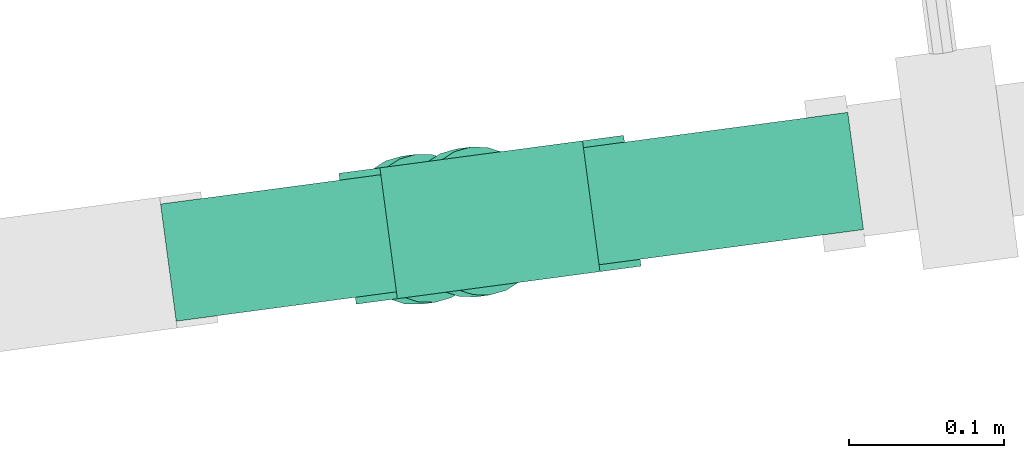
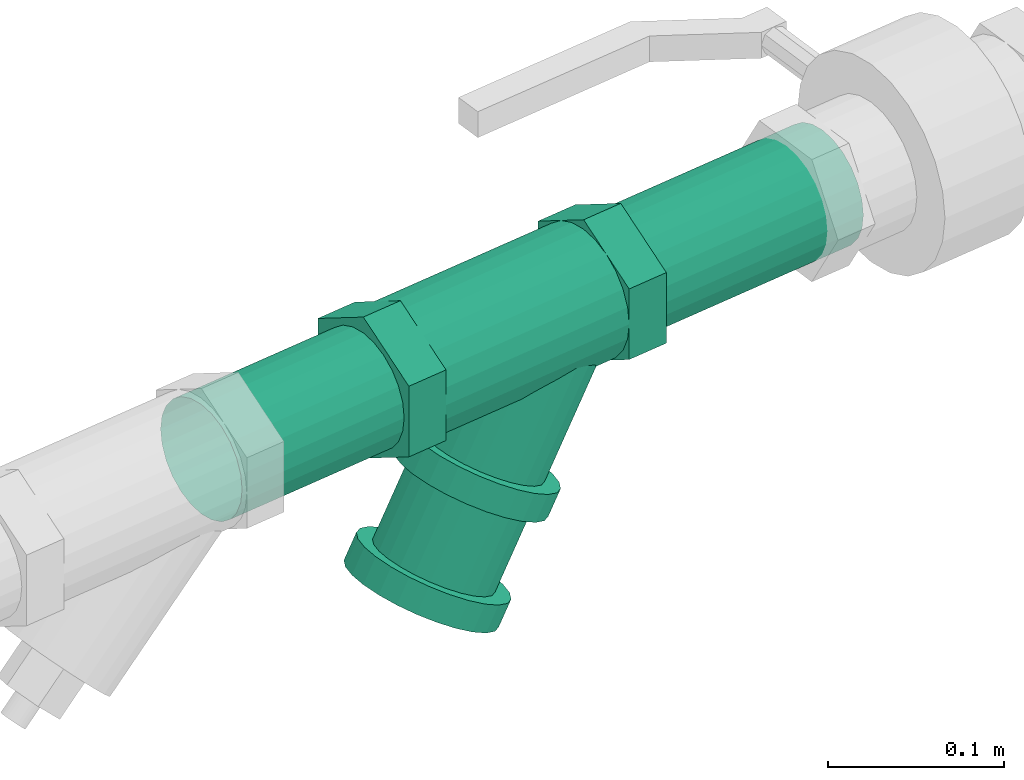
# One storey, part 332 of 374: 2 flow segments, 1 flow treatment device.
"""IFC2X3 building model written with IfcOpenShell, lengths in metres."""

import ifcopenshell
import ifcopenshell.guid

model = None  # the IFC model being written
_history = None  # IfcOwnerHistory: only IFC2X3 demands one
_inside = {}  # id of a spatial element -> (the spatial element, [elements in it])
_under = {}  # id of a project, library or spatial element -> (it, [spatial elements below it])
_declared = {}  # id of a project -> (the project, [libraries it declares])
_typed = {}  # id of a type object -> (the type object, [elements of that type])
_made_of = {}  # id of a material, layer set ... -> (it, [elements and type objects made of it])


def new_model(schema):
    """Start an empty IFC model of exactly this schema.

    Asked for "IFC4X3", IfcOpenShell would pick the latest addendum, in which some entities
    have other attributes; the version numbers below select the first issue.
    IFC2X3 requires an IfcOwnerHistory on every rooted entity: one is made here for all.
    """
    global model, _history
    if schema == "IFC4X3":
        model = ifcopenshell.file(schema_version=(4, 3, 0, 0))
    else:
        model = ifcopenshell.file(schema=schema)
    _inside.clear()
    _under.clear()
    _declared.clear()
    _typed.clear()
    _made_of.clear()
    _history = None
    if model.schema == "IFC2X3":
        org = make("IfcOrganization", Name="unknown")
        user = make(
            "IfcPersonAndOrganization",
            ThePerson=make("IfcPerson", FamilyName="unknown"),
            TheOrganization=org,
        )
        app = make(
            "IfcApplication",
            ApplicationDeveloper=org,
            Version="unknown",
            ApplicationFullName="unknown",
            ApplicationIdentifier="unknown",
        )
        _history = make(
            "IfcOwnerHistory",
            OwningUser=user,
            OwningApplication=app,
            ChangeAction="ADDED",
            CreationDate=0,
        )
    return model


def make(cls, **values):
    """One entity of the class cls with the attributes given. An attribute that is None is left unset."""
    return model.create_entity(
        cls, **{name: value for name, value in values.items() if value is not None}
    )


def rooted(cls, **values):
    """An entity with a GlobalId (a new one), such as an element, a storey or a relation."""
    return make(cls, GlobalId=ifcopenshell.guid.new(), OwnerHistory=_history, **values)


def si_unit(unit_type, name, prefix=None):
    """IfcSIUnit, for example si_unit("LENGTHUNIT", "METRE", prefix="MILLI")."""
    return make("IfcSIUnit", UnitType=unit_type, Prefix=prefix, Name=name)


def assignment(units):
    """IfcUnitAssignment: the units of a project."""
    return None if units is None else make("IfcUnitAssignment", Units=units)


def point(xyz):
    """IfcCartesianPoint."""
    return None if xyz is None else make("IfcCartesianPoint", Coordinates=xyz)


def direction(xyz):
    """IfcDirection."""
    return None if xyz is None else make("IfcDirection", DirectionRatios=xyz)


def frame(location, z_axis=None, x_axis=None):
    """IfcAxis2Placement3D, a coordinate frame: its origin and axes. An axis left out is left unset."""
    return make(
        "IfcAxis2Placement3D",
        Location=point(location),
        Axis=direction(z_axis),
        RefDirection=direction(x_axis),
    )


def origin():
    """The frame at (0, 0, 0) with its axes left unset."""
    return frame((0.0, 0.0, 0.0))


def place(relative_to, where):
    """IfcLocalPlacement: puts the frame where relative to a parent placement (None: the world)."""
    return make(
        "IfcLocalPlacement", PlacementRelTo=relative_to, RelativePlacement=where
    )


def context(
    kind, dimensions, precision=None, world=None, true_north=None, identifier=None
):
    """IfcGeometricRepresentationContext, for example the 3D "Model" context."""
    return make(
        "IfcGeometricRepresentationContext",
        ContextIdentifier=identifier,
        ContextType=kind,
        CoordinateSpaceDimension=dimensions,
        Precision=precision,
        WorldCoordinateSystem=world,
        TrueNorth=true_north,
    )


def subcontext(parent, identifier, kind, view, scale=None):
    """IfcGeometricRepresentationSubContext, for example "Body" below "Model"."""
    return make(
        "IfcGeometricRepresentationSubContext",
        ContextIdentifier=identifier,
        ContextType=kind,
        ParentContext=parent,
        TargetScale=scale,
        TargetView=view,
    )


def project(units=None, contexts=None):
    """IfcProject with its units and contexts."""
    return rooted(
        "IfcProject",
        Name="project",
        RepresentationContexts=contexts,
        UnitsInContext=assignment(units),
    )


def spatial(cls, under=None, at=None, **own):
    """A site, building, storey or space (cls), placed at a placement, below another one or the project."""
    s = rooted(cls, ObjectPlacement=at, **own)
    if under is not None:
        _under.setdefault(under.id(), (under, []))[1].append(s)
    return s


def faces_of(points, faces, orient=None, outer=None):
    """IfcFace entities. A face is a list of loops; a loop is a list of indices into points, from 0.

    orient and outer hold one flag for each loop. By default every Orientation is true, the
    first loop of a face is its IfcFaceOuterBound and the others are IfcFaceBound.
    """
    made = []
    for i, loops in enumerate(faces):
        bounds = []
        for j, loop in enumerate(loops):
            is_outer = j == 0 if outer is None else outer[i][j]
            bounds.append(
                make(
                    "IfcFaceOuterBound" if is_outer else "IfcFaceBound",
                    Bound=make("IfcPolyLoop", Polygon=[points[k] for k in loop]),
                    Orientation=True if orient is None else orient[i][j],
                )
            )
        made.append(make("IfcFace", Bounds=bounds))
    return made


def open_shell(faces, orient=None, outer=None):
    """The faces of one IfcOpenShell. surface_model builds it on its shared points."""
    return ("IfcOpenShell", faces, orient, outer)


def surface_model(cls, points, shells):
    """IfcFaceBasedSurfaceModel or IfcShellBasedSurfaceModel (cls): surfaces that need not close."""
    shared = [point(p) for p in points]
    made = [make(c, CfsFaces=faces_of(shared, fs, o, b)) for c, fs, o, b in shells]
    if cls == "IfcFaceBasedSurfaceModel":
        return make(cls, FbsmFaces=made)
    return make(cls, SbsmBoundary=made)


def shape(context_of_items, identifier, shape_type, items):
    """IfcShapeRepresentation: the items that make up one representation, for example the "Body"."""
    return make(
        "IfcShapeRepresentation",
        ContextOfItems=context_of_items,
        RepresentationIdentifier=identifier,
        RepresentationType=shape_type,
        Items=items,
    )


def source(mapping_origin, context_of_items, identifier, shape_type, items):
    """IfcRepresentationMap: a shape defined once, which mapped items show again and again."""
    return make(
        "IfcRepresentationMap",
        MappingOrigin=mapping_origin,
        MappedRepresentation=shape(context_of_items, identifier, shape_type, items),
    )


def transform(
    local_origin,
    x_axis=None,
    y_axis=None,
    z_axis=None,
    scale=None,
    scale2=None,
    scale3=None,
    uniform=True,
):
    """IfcCartesianTransformationOperator3D, or its non-uniform kind. x_axis, y_axis, z_axis: its Axis1, 2, 3."""
    if uniform:
        return make(
            "IfcCartesianTransformationOperator3D",
            Axis1=direction(x_axis),
            Axis2=direction(y_axis),
            LocalOrigin=point(local_origin),
            Scale=scale,
            Axis3=direction(z_axis),
        )
    return make(
        "IfcCartesianTransformationOperator3DnonUniform",
        Axis1=direction(x_axis),
        Axis2=direction(y_axis),
        LocalOrigin=point(local_origin),
        Scale=scale,
        Axis3=direction(z_axis),
        Scale2=scale2,
        Scale3=scale3,
    )


def mapped(mapping_source, mapping_target):
    """IfcMappedItem: shows the shape of a source again, moved by a transform."""
    return make(
        "IfcMappedItem", MappingSource=mapping_source, MappingTarget=mapping_target
    )


def made_of(thing, what):
    """Note that an element or type object is made of a material, layer set ...; save() writes the relation."""
    if what is not None:
        _made_of.setdefault(what.id(), (what, []))[1].append(thing)
    return thing


def element(
    cls,
    number,
    at=None,
    inside=None,
    cuts=None,
    type_object=None,
    material=None,
    context=None,
    identifier="Body",
    shape_type=None,
    held_by="IfcProductDefinitionShape",
    body=None,
    shapes=None,
    **own,
):
    """One element of the class cls, such as IfcWall. Its Tag is "e" and its number.

    at: its placement. inside: the storey or other place that contains it. cuts: it is an
    opening in that element (IfcRelVoidsElement). A single representation is given by context,
    identifier, shape_type and body (its items); several are given by shapes. held_by: the class
    of the entity that holds the representations. save() writes the other relations.
    """
    e = rooted(cls, Tag="e%d" % number, ObjectPlacement=at, **own)
    if body is not None:
        shapes = [shape(context, identifier, shape_type, body)]
    if shapes is not None:
        e.Representation = make(held_by, Representations=shapes)
    if inside is not None:
        _inside.setdefault(inside.id(), (inside, []))[1].append(e)
    if cuts is not None:
        rooted(
            "IfcRelVoidsElement", RelatingBuildingElement=cuts, RelatedOpeningElement=e
        )
    if type_object is not None:
        _typed.setdefault(type_object.id(), (type_object, []))[1].append(e)
    return made_of(e, material)


def aggregate(whole, parts):
    """IfcRelAggregates: a whole, such as a stair, and the parts it consists of."""
    return rooted("IfcRelAggregates", RelatingObject=whole, RelatedObjects=parts)


def save(model, path):
    """Write the relations noted so far, then the file.

    IfcRelAggregates (storeys below a building ...), IfcRelContainedInSpatialStructure (elements
    in a storey), IfcRelDefinesByType, IfcRelAssociatesMaterial and IfcRelDeclares: one each for
    every whole, place, type object, material and project.
    """
    for whole, parts in _under.values():
        aggregate(whole, parts)
    for where, things in _inside.values():
        rooted(
            "IfcRelContainedInSpatialStructure",
            RelatedElements=things,
            RelatingStructure=where,
        )
    for kind, things in _typed.values():
        rooted("IfcRelDefinesByType", RelatedObjects=things, RelatingType=kind)
    for what, things in _made_of.values():
        rooted("IfcRelAssociatesMaterial", RelatedObjects=things, RelatingMaterial=what)
    for by, libraries in _declared.values():
        rooted("IfcRelDeclares", RelatingContext=by, RelatedDefinitions=libraries)
    model.write(path)


model = new_model("IFC2X3")

# Units and contexts
model_context = context("Model", 3, precision=1e-05, world=origin(), true_north=direction((-0.4480736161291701, 0.8939966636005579)))
body_context = subcontext(model_context, "Body", "Model", "MODEL_VIEW")
ifc_project = project(units=[si_unit("LENGTHUNIT", "METRE"), si_unit("AREAUNIT", "SQUARE_METRE"), si_unit("VOLUMEUNIT", "CUBIC_METRE"), si_unit("PLANEANGLEUNIT", "RADIAN"), si_unit("THERMODYNAMICTEMPERATUREUNIT", "KELVIN"), si_unit("MASSUNIT", "GRAM", prefix="KILO"), si_unit("TIMEUNIT", "SECOND")], contexts=[model_context])

# Site, building, storey
site_placement = place(None, origin())
site = spatial("IfcSite", under=ifc_project, at=site_placement, Name="Site 1", CompositionType="ELEMENT")
building_placement = place(site_placement, origin())
building = spatial("IfcBuilding", under=site, at=building_placement, Name="Undefined", CompositionType="ELEMENT")
storey_placement = place(building_placement, origin())
storey = spatial("IfcBuildingStorey", under=building, at=storey_placement, Name="Rez de chauss\x8ee", CompositionType="ELEMENT", Elevation=0.0)

# Flow treatment device
shared_shape_1 = source(origin(), body_context, "Body", "SurfaceModel", [
    surface_model("IfcFaceBasedSurfaceModel", [(0.0022456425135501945, 0.009933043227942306, 7.105427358e-15), (0.0, 0.0, 0.0), (0.033012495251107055, -3.552713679e-15, 7.105427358e-15), (0.03301249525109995, 0.00993304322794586, -7.105427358e-15), (-0.006583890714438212, -0.00959458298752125, -0.002570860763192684), (0.033012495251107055, -0.009594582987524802, -0.002570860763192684), (-0.01705734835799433, -0.018196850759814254, -0.007537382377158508), (0.03301249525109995, -0.0181968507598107, -0.0075373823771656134), (-0.030706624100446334, -0.025220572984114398, -0.0145611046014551), (0.033012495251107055, -0.025220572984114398, -0.014561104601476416), (-0.04660154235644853, -0.03018709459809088, -0.023163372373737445), (0.03301249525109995, -0.03018709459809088, -0.02316337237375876), (-0.06365889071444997, -0.03275795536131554, -0.03275795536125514), (0.03301249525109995, -0.032757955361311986, -0.03275795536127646), (-0.057973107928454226, -0.03275795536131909, -0.042690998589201), (0.033012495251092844, -0.03275795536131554, -0.04269099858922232), (-0.0526748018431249, -0.03018709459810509, -0.052285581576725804), (0.03301249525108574, -0.030187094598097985, -0.05228558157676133), (-0.04812504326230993, -0.025220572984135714, -0.06088784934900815), (0.03301249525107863, -0.02522057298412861, -0.06088784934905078), (-0.044633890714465, -0.018196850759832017, -0.06791157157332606), (0.033012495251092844, -0.018196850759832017, -0.06791157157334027), (-0.042439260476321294, -0.009594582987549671, -0.07287809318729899), (0.03301249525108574, -0.009594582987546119, -0.0728780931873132), (-0.04169071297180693, -3.1974423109e-14, -0.0754489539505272), (0.03301249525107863, -2.842170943e-14, -0.07544895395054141), (-0.042439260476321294, 0.009933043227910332, -0.07544895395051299), (0.03301249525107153, 0.00993304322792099, -0.07544895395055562), (-0.044633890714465, 0.019527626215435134, -0.07287809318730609), (0.03301249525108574, 0.019527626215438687, -0.0728780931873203), (-0.04812504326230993, 0.02812989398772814, -0.06791157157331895), (0.03301249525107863, 0.02812989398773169, -0.06791157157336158), (-0.052674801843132, 0.03515361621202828, -0.06088784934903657), (0.03301249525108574, 0.03515361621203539, -0.06088784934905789), (-0.057973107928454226, 0.040120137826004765, -0.052285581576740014), (0.03301249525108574, 0.04012013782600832, -0.052285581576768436), (-0.06365889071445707, 0.04269099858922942, -0.04269099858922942), (0.033012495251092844, 0.042690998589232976, -0.042690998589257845), (-0.04660154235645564, 0.042690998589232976, -0.032757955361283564), (0.03301249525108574, 0.04269099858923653, -0.032757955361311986), (-0.03070662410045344, 0.040120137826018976, -0.023163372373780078), (0.03301249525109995, 0.040120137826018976, -0.023163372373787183), (-0.017057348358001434, 0.03515361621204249, -0.014561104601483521), (0.033012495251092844, 0.03515361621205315, -0.014561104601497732), (-0.006583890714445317, 0.028129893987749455, -0.00753738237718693), (0.03301249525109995, 0.028129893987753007, -0.007537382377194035), (7.105427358e-15, 0.019527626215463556, -0.0025708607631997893), (0.03301249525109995, 0.019527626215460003, -0.0025708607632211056), (-0.11013315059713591, -0.04127114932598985, -0.06332930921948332), (-0.06763315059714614, -0.04447392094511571, -0.08765677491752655), (-0.05428315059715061, -0.04145577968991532, -0.0647317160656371), (-0.09678315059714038, -0.03825300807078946, -0.040404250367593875), (-0.1313831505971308, 0.0024666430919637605, -0.05671293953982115), (-0.11803315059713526, 0.005484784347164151, -0.033787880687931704), (-0.11013315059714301, 0.04300166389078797, -0.07442403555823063), (-0.09678315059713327, 0.04601980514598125, -0.051498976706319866), (-0.06763315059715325, 0.03979889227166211, -0.09875150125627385), (-0.054283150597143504, 0.0428170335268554, -0.07582644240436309), (-0.04638315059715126, -0.0039389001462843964, -0.10536787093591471), (-0.033033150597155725, -0.0009207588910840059, -0.08244281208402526), (-0.07553315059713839, 0.044418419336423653, -0.06366270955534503), (-0.08505926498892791, 0.0437005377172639, -0.05802083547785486), (-0.01925926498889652, 0.0585764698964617, 0.05497308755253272), (-0.009733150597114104, 0.05929435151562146, 0.04933121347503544), (-0.09393619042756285, 0.04016005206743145, -0.05238540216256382), (-0.028136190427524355, 0.0550359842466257, 0.06060852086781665), (-0.10155897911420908, 0.03403824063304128, -0.04714045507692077), (-0.035758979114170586, 0.04891417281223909, 0.0658534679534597), (-0.10740815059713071, 0.02575229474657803, -0.042643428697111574), (-0.04160815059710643, 0.04062822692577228, 0.07035049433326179), (-0.1110850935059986, 0.01586688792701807, -0.03920078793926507), (-0.045285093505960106, 0.03074282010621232, 0.07379313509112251), (-0.1123392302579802, 0.005055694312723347, -0.037047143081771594), (-0.04653923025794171, 0.019931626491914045, 0.07594677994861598), (-0.11108509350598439, -0.005944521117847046, -0.03632926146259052), (-0.045285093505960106, 0.008931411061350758, 0.07666466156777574), (-0.10740815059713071, -0.01638411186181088, -0.03709606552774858), (-0.04160815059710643, -0.0015081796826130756, 0.07589785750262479), (-0.10155897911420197, -0.025551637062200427, -0.03929529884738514), (-0.03575897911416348, -0.010675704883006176, 0.07369862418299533), (-0.09393619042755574, -0.03282234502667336, -0.042777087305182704), (-0.02813619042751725, -0.017946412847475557, 0.07021683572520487), (-0.0850592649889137, -0.037700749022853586, -0.047304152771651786), (-0.019259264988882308, -0.022824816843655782, 0.06568977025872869), (-0.07553315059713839, -0.03985439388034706, -0.05256798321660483), (-0.009733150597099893, -0.02497846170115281, 0.06042593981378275), (-0.06600703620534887, -0.039136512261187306, -0.0582098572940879), (-0.00020703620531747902, -0.024260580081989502, 0.054784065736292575), (-0.05713011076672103, -0.03559602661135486, -0.06384529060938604), (0.008669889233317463, -0.020720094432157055, 0.04914863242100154), (-0.049507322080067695, -0.029474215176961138, -0.06909023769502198), (0.0162926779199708, -0.014598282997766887, 0.04390368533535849), (-0.04365815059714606, -0.021188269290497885, -0.07358726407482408), (0.022141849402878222, -0.0063123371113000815, 0.03940665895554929), (-0.039981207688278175, -0.011302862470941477, -0.07702990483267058), (0.025818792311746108, 0.0035730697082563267, 0.03596401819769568), (-0.03872707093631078, -0.0004916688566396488, -0.07918354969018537), (0.027072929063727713, 0.01438426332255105, 0.033810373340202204), (-0.039981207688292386, 0.010508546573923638, -0.07990143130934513), (0.025818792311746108, 0.02538447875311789, 0.03309249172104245), (-0.04365815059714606, 0.020948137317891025, -0.07913462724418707), (0.022141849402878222, 0.035824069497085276, 0.033859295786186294), (-0.0495073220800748, 0.030115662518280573, -0.07693539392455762), (0.016292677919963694, 0.044991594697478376, 0.036058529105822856), (-0.05713011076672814, 0.03738637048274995, -0.07345360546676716), (0.008669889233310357, 0.052262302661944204, 0.039540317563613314), (-0.06600703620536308, 0.04226477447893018, -0.06892654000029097), (-0.00020703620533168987, 0.05714070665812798, 0.04406738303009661), (-0.030983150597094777, -0.02337707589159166, 0.07258967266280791), (0.01151684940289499, -0.026579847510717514, 0.04826220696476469), (0.02486684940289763, -0.023561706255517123, 0.07118726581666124), (-0.01763315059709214, -0.020358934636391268, 0.09551473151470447), (-0.05223315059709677, 0.02036071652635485, 0.07920604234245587), (-0.03888315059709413, 0.02337885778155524, 0.10213110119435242), (-0.030983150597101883, 0.06089573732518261, 0.06149494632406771), (-0.01763315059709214, 0.06391387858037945, 0.08442000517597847), (0.011516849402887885, 0.057692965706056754, 0.037167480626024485), (0.02486684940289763, 0.06071110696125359, 0.06009253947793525), (0.03276684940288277, 0.013955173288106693, 0.030551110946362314), (0.04611684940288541, 0.016973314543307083, 0.053476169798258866), (0.033012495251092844, 0.05260544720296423, -0.04399626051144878), (0.03301249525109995, 0.05260544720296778, -0.03145269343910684), (0.051012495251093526, 0.05260544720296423, -0.03145269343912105), (0.051012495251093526, 0.052605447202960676, -0.04399626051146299), (0.033012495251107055, 0.049358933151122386, -0.019336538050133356), (0.051012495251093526, 0.04935893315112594, -0.019336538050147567), (0.03301249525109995, 0.04308714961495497, -0.008473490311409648), (0.05101249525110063, 0.04308714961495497, -0.008473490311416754), (0.033012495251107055, 0.03421750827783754, 0.0003961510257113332), (0.05101249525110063, 0.034217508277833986, 0.00039615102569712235), (0.03301249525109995, 0.023354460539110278, 0.00666793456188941), (0.05101249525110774, 0.023354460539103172, 0.006667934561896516), (0.033012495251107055, 0.011238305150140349, 0.00991444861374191), (0.05101249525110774, 0.011238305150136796, 0.009914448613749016), (0.03301249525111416, -0.0013052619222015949, 0.009914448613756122), (0.05101249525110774, -0.0013052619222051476, 0.009914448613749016), (0.03301249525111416, -0.013421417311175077, 0.006667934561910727), (0.05101249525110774, -0.013421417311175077, 0.006667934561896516), (0.03301249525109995, -0.024284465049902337, 0.0003961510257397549), (0.05101249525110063, -0.02428446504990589, 0.00039615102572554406), (0.03301249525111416, -0.03315410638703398, -0.008473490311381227), (0.05101249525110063, -0.03315410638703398, -0.008473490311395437), (0.033012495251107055, -0.03942588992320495, -0.019336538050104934), (0.05101249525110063, -0.039425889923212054, -0.019336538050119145), (0.033012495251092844, -0.04267240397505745, -0.03145269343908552), (0.05101249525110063, -0.04267240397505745, -0.03145269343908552), (0.03301249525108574, -0.042672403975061, -0.043996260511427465), (0.051012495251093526, -0.042672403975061, -0.04399626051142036), (0.03301249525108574, -0.03942588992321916, -0.05611241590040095), (0.051012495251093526, -0.03942588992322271, -0.05611241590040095), (0.03301249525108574, -0.03315410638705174, -0.06697546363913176), (0.051012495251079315, -0.03315410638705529, -0.06697546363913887), (0.03301249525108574, -0.02428446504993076, -0.07584510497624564), (0.05101249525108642, -0.024284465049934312, -0.07584510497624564), (0.033012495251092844, -0.013421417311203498, -0.08211688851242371), (0.051012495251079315, -0.013421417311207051, -0.08211688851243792), (0.03301249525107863, -0.0013052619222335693, -0.08536340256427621), (0.05101249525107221, -0.0013052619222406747, -0.08536340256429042), (0.03301249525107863, 0.011238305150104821, -0.08536340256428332), (0.051012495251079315, 0.011238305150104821, -0.08536340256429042), (0.03301249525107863, 0.023354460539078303, -0.08211688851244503), (0.051012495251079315, 0.023354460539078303, -0.08211688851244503), (0.03301249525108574, 0.034217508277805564, -0.07584510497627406), (0.051012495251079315, 0.034217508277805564, -0.07584510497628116), (0.03301249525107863, 0.043087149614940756, -0.06697546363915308), (0.051012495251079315, 0.04308714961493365, -0.06697546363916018), (0.03301249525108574, 0.04935893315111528, -0.05611241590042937), (0.051012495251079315, 0.04935893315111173, -0.05611241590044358), (0.033012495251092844, 0.004966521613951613, -0.03772447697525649), (0.051012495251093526, 0.004966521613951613, -0.03772447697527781), (0.05101249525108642, 0.04269099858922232, -0.042690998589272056), (0.051012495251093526, 0.04269099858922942, -0.03275795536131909), (0.10421902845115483, 0.04269099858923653, -0.032757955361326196), (0.10421902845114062, 0.042690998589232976, -0.04269099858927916), (0.05101249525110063, 0.040120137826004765, -0.023163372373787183), (0.10421902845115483, 0.04012013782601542, -0.0231633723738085), (0.051012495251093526, 0.03515361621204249, -0.014561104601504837), (0.10421902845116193, 0.0351536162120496, -0.014561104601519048), (0.05101249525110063, 0.028129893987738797, -0.007537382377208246), (0.10421902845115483, 0.028129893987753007, -0.007537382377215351), (0.05101249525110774, 0.01952762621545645, -0.0025708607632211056), (0.10421902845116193, 0.019527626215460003, -0.0025708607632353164), (0.05101249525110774, 0.009933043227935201, 7.105427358e-15), (0.10421902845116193, 0.00993304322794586, -1.4210854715e-14), (0.05101249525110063, -1.0658141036e-14, -7.105427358e-15), (0.10421902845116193, 0.0, -7.105427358e-15), (0.05101249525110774, -0.009594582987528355, -0.002570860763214), (0.10421902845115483, -0.00959458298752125, -0.002570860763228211), (0.05101249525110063, -0.01819685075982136, -0.007537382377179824), (0.10421902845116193, -0.0181968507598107, -0.007537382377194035), (0.051012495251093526, -0.025220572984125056, -0.014561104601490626), (0.10421902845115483, -0.02522057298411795, -0.014561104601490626), (0.05101249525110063, -0.030187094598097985, -0.023163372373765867), (0.10421902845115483, -0.03018709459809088, -0.023163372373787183), (0.05101249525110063, -0.032757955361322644, -0.032757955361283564), (0.10421902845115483, -0.032757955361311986, -0.032757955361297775), (0.05101249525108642, -0.03275795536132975, -0.04269099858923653), (0.10421902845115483, -0.03275795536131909, -0.042690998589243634), (0.05101249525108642, -0.030187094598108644, -0.052285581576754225), (0.10421902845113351, -0.030187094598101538, -0.05228558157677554), (0.05101249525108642, -0.02522057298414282, -0.06088784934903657), (0.10421902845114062, -0.02522057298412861, -0.06088784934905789), (0.051012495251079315, -0.018196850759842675, -0.06791157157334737), (0.10421902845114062, -0.01819685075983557, -0.06791157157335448), (0.051012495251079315, -0.009594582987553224, -0.07287809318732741), (0.10421902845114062, -0.009594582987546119, -0.07287809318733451), (0.051012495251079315, -3.1974423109e-14, -0.07544895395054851), (0.10421902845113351, -2.4868995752e-14, -0.07544895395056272), (0.051012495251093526, 0.009933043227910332, -0.07544895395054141), (0.10421902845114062, 0.009933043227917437, -0.07544895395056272), (0.051012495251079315, 0.01952762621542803, -0.07287809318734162), (0.10421902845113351, 0.019527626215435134, -0.07287809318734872), (0.051012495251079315, 0.028129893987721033, -0.06791157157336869), (0.10421902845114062, 0.02812989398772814, -0.0679115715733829), (0.05101249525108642, 0.03515361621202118, -0.0608878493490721), (0.10421902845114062, 0.035153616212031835, -0.0608878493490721), (0.05101249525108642, 0.04012013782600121, -0.05228558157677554), (0.10421902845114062, 0.04012013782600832, -0.05228558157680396), (0.10421902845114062, 0.05260544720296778, -0.0439962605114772), (0.10421902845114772, 0.052605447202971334, -0.03145269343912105), (0.12221902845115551, 0.05260544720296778, -0.03145269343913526), (0.1222190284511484, 0.05260544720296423, -0.0439962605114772), (0.10421902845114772, 0.049358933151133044, -0.019336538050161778), (0.1222190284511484, 0.04935893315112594, -0.019336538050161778), (0.10421902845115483, 0.04308714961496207, -0.008473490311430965), (0.12221902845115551, 0.04308714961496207, -0.00847349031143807), (0.10421902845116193, 0.03421750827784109, 0.00039615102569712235), (0.1222190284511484, 0.03421750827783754, 0.0003961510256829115), (0.10421902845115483, 0.023354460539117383, 0.006667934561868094), (0.1222190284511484, 0.02335446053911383, 0.006667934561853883), (0.10421902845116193, 0.011238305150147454, 0.0099144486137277), (0.12221902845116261, 0.011238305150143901, 0.009914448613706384), (0.10421902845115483, -0.0013052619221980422, 0.009914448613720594), (0.12221902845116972, -0.0013052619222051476, 0.009914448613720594), (0.10421902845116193, -0.013421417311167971, 0.006667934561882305), (0.12221902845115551, -0.013421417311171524, 0.006667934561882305), (0.10421902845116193, -0.024284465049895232, 0.0003961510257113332), (0.12221902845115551, -0.024284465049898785, 0.0003961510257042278), (0.10421902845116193, -0.03315410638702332, -0.008473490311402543), (0.12221902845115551, -0.033154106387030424, -0.008473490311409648), (0.10421902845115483, -0.039425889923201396, -0.019336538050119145), (0.12221902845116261, -0.03942588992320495, -0.019336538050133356), (0.10421902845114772, -0.042672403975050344, -0.03145269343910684), (0.1222190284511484, -0.042672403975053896, -0.03145269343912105), (0.10421902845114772, -0.04267240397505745, -0.04399626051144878), (0.12221902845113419, -0.04267240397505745, -0.04399626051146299), (0.10421902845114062, -0.039425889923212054, -0.05611241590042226), (0.12221902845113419, -0.03942588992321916, -0.056112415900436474), (0.10421902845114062, -0.03315410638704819, -0.06697546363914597), (0.12221902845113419, -0.03315410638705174, -0.06697546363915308), (0.10421902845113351, -0.024284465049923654, -0.07584510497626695), (0.1222190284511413, -0.024284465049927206, -0.07584510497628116), (0.10421902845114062, -0.013421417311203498, -0.08211688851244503), (0.12221902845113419, -0.013421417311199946, -0.08211688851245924), (0.10421902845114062, -0.0013052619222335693, -0.08536340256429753), (0.12221902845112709, -0.001305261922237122, -0.08536340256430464), (0.10421902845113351, 0.01123830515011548, -0.08536340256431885), (0.12221902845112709, 0.01123830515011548, -0.08536340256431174), (0.1042190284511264, 0.02335446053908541, -0.08211688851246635), (0.12221902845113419, 0.023354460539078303, -0.08211688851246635), (0.10421902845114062, 0.03421750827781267, -0.07584510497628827), (0.12221902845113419, 0.03421750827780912, -0.07584510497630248), (0.10421902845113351, 0.043087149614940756, -0.06697546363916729), (0.12221902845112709, 0.043087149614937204, -0.0669754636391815), (0.10421902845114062, 0.04935893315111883, -0.05611241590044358), (0.12221902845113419, 0.04935893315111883, -0.056112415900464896), (0.10421902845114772, 0.004966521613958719, -0.03772447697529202), (0.1222190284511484, 0.004966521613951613, -0.03772447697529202)], [open_shell([[[0, 1, 2, 3]], [[1, 4, 5, 2]], [[4, 6, 7, 5]], [[6, 8, 9, 7]], [[8, 10, 11, 9]], [[10, 12, 13, 11]], [[12, 14, 15, 13]], [[14, 16, 17, 15]], [[16, 18, 19, 17]], [[18, 20, 21, 19]], [[20, 22, 23, 21]], [[22, 24, 25, 23]], [[24, 26, 27, 25]], [[26, 28, 29, 27]], [[28, 30, 31, 29]], [[30, 32, 33, 31]], [[32, 34, 35, 33]], [[34, 36, 37, 35]], [[36, 38, 39, 37]], [[38, 40, 41, 39]], [[40, 42, 43, 41]], [[42, 44, 45, 43]], [[44, 46, 47, 45]], [[46, 0, 3, 47]], [[48, 49, 50, 51]], [[52, 48, 51, 53]], [[54, 52, 53, 55]], [[56, 54, 55, 57]], [[58, 56, 57, 59]], [[49, 58, 59, 50]], [[49, 48, 52]], [[49, 52, 54]], [[49, 54, 56]], [[49, 56, 58]], [[50, 53, 51]], [[50, 55, 53]], [[50, 57, 55]], [[50, 59, 57]], [[60, 61, 62, 63]], [[61, 64, 65, 62]], [[64, 66, 67, 65]], [[66, 68, 69, 67]], [[68, 70, 71, 69]], [[70, 72, 73, 71]], [[72, 74, 75, 73]], [[74, 76, 77, 75]], [[76, 78, 79, 77]], [[78, 80, 81, 79]], [[80, 82, 83, 81]], [[82, 84, 85, 83]], [[84, 86, 87, 85]], [[86, 88, 89, 87]], [[88, 90, 91, 89]], [[90, 92, 93, 91]], [[92, 94, 95, 93]], [[94, 96, 97, 95]], [[96, 98, 99, 97]], [[98, 100, 101, 99]], [[100, 102, 103, 101]], [[102, 104, 105, 103]], [[104, 106, 107, 105]], [[106, 60, 63, 107]], [[108, 109, 110, 111]], [[112, 108, 111, 113]], [[114, 112, 113, 115]], [[116, 114, 115, 117]], [[118, 116, 117, 119]], [[109, 118, 119, 110]], [[109, 108, 112]], [[109, 112, 114]], [[109, 114, 116]], [[109, 116, 118]], [[110, 113, 111]], [[110, 115, 113]], [[110, 117, 115]], [[110, 119, 117]], [[120, 121, 122, 123]], [[121, 124, 125, 122]], [[124, 126, 127, 125]], [[126, 128, 129, 127]], [[128, 130, 131, 129]], [[130, 132, 133, 131]], [[132, 134, 135, 133]], [[134, 136, 137, 135]], [[136, 138, 139, 137]], [[138, 140, 141, 139]], [[140, 142, 143, 141]], [[142, 144, 145, 143]], [[144, 146, 147, 145]], [[146, 148, 149, 147]], [[148, 150, 151, 149]], [[150, 152, 153, 151]], [[152, 154, 155, 153]], [[154, 156, 157, 155]], [[156, 158, 159, 157]], [[158, 160, 161, 159]], [[160, 162, 163, 161]], [[162, 164, 165, 163]], [[164, 166, 167, 165]], [[166, 120, 123, 167]], [[168, 121, 120]], [[168, 124, 121]], [[168, 126, 124]], [[168, 128, 126]], [[168, 130, 128]], [[168, 132, 130]], [[168, 134, 132]], [[168, 136, 134]], [[168, 138, 136]], [[168, 140, 138]], [[168, 142, 140]], [[168, 144, 142]], [[168, 146, 144]], [[168, 148, 146]], [[168, 150, 148]], [[168, 152, 150]], [[168, 154, 152]], [[168, 156, 154]], [[168, 158, 156]], [[168, 160, 158]], [[168, 162, 160]], [[168, 164, 162]], [[168, 166, 164]], [[168, 120, 166]], [[169, 167, 123]], [[169, 165, 167]], [[169, 163, 165]], [[169, 161, 163]], [[169, 159, 161]], [[169, 157, 159]], [[169, 155, 157]], [[169, 153, 155]], [[169, 151, 153]], [[169, 149, 151]], [[169, 147, 149]], [[169, 145, 147]], [[169, 143, 145]], [[169, 141, 143]], [[169, 139, 141]], [[169, 137, 139]], [[169, 135, 137]], [[169, 133, 135]], [[169, 131, 133]], [[169, 129, 131]], [[169, 127, 129]], [[169, 125, 127]], [[169, 122, 125]], [[169, 123, 122]], [[170, 171, 172, 173]], [[171, 174, 175, 172]], [[174, 176, 177, 175]], [[176, 178, 179, 177]], [[178, 180, 181, 179]], [[180, 182, 183, 181]], [[182, 184, 185, 183]], [[184, 186, 187, 185]], [[186, 188, 189, 187]], [[188, 190, 191, 189]], [[190, 192, 193, 191]], [[192, 194, 195, 193]], [[194, 196, 197, 195]], [[196, 198, 199, 197]], [[198, 200, 201, 199]], [[200, 202, 203, 201]], [[202, 204, 205, 203]], [[204, 206, 207, 205]], [[206, 208, 209, 207]], [[208, 210, 211, 209]], [[210, 212, 213, 211]], [[212, 214, 215, 213]], [[214, 216, 217, 215]], [[216, 170, 173, 217]], [[218, 219, 220, 221]], [[219, 222, 223, 220]], [[222, 224, 225, 223]], [[224, 226, 227, 225]], [[226, 228, 229, 227]], [[228, 230, 231, 229]], [[230, 232, 233, 231]], [[232, 234, 235, 233]], [[234, 236, 237, 235]], [[236, 238, 239, 237]], [[238, 240, 241, 239]], [[240, 242, 243, 241]], [[242, 244, 245, 243]], [[244, 246, 247, 245]], [[246, 248, 249, 247]], [[248, 250, 251, 249]], [[250, 252, 253, 251]], [[252, 254, 255, 253]], [[254, 256, 257, 255]], [[256, 258, 259, 257]], [[258, 260, 261, 259]], [[260, 262, 263, 261]], [[262, 264, 265, 263]], [[264, 218, 221, 265]], [[266, 219, 218]], [[266, 222, 219]], [[266, 224, 222]], [[266, 226, 224]], [[266, 228, 226]], [[266, 230, 228]], [[266, 232, 230]], [[266, 234, 232]], [[266, 236, 234]], [[266, 238, 236]], [[266, 240, 238]], [[266, 242, 240]], [[266, 244, 242]], [[266, 246, 244]], [[266, 248, 246]], [[266, 250, 248]], [[266, 252, 250]], [[266, 254, 252]], [[266, 256, 254]], [[266, 258, 256]], [[266, 260, 258]], [[266, 262, 260]], [[266, 264, 262]], [[266, 218, 264]], [[267, 265, 221]], [[267, 263, 265]], [[267, 261, 263]], [[267, 259, 261]], [[267, 257, 259]], [[267, 255, 257]], [[267, 253, 255]], [[267, 251, 253]], [[267, 249, 251]], [[267, 247, 249]], [[267, 245, 247]], [[267, 243, 245]], [[267, 241, 243]], [[267, 239, 241]], [[267, 237, 239]], [[267, 235, 237]], [[267, 233, 235]], [[267, 231, 233]], [[267, 229, 231]], [[267, 227, 229]], [[267, 225, 227]], [[267, 223, 225]], [[267, 220, 223]], [[267, 221, 220]]])]),
])
flow_treatment_device_placement = place(storey_placement, origin())
element("IfcFlowTreatmentDevice", 1, at=flow_treatment_device_placement, inside=storey, Name="Filtre en Y", ObjectType="Filtre en Y", context=body_context, shape_type="MappedRepresentation", body=[
    mapped(shared_shape_1, transform((67.06385583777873, 20.49766548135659, 0.6636793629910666), x_axis=(-0.49560777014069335, -0.06612819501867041, -0.8660254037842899), y_axis=(0.019078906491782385, -0.9976856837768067, 0.06526309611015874), z_axis=(-0.8683368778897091, 0.015822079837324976, 0.49572243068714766))),
])

# Flow segments
shared_shape_2 = source(origin(), body_context, "Body", "SurfaceModel", [
    surface_model("IfcFaceBasedSurfaceModel", [(0.0, 0.009933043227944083, 0.0), (0.0, 0.0, 0.0), (0.17174651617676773, -1.776356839e-15, -4.4408921e-16), (0.17174651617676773, 0.00993304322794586, -4.4408921e-16), (0.0, -0.009594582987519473, -0.002570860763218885), (0.17174651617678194, -0.009594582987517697, -0.002570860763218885), (0.0, -0.018196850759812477, -0.007537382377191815), (0.17174651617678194, -0.0181968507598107, -0.007537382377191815), (0.0, -0.025220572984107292, -0.014561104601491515), (0.17174651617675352, -0.025220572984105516, -0.014561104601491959), (1.4210854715e-14, -0.030187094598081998, -0.023163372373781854), (0.17174651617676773, -0.030187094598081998, -0.023163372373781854), (0.0, -0.03275795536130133, -0.032757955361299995), (0.17174651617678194, -0.03275795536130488, -0.032757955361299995), (1.4210854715e-14, -0.03275795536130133, -0.0426909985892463), (0.17174651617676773, -0.03275795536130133, -0.0426909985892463), (0.0, -0.030187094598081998, -0.052285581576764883), (0.17174651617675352, -0.030187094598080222, -0.05228558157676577), (0.0, -0.02522057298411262, -0.06088784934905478), (0.17174651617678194, -0.025220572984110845, -0.06088784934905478), (0.0, -0.0181968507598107, -0.06791157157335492), (0.17174651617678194, -0.018196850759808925, -0.06791157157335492), (0.0, -0.009594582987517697, -0.07287809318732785), (0.17174651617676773, -0.00959458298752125, -0.07287809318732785), (0.0, -3.552713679e-15, -0.07544895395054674), (0.17174651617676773, -1.776356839e-15, -0.07544895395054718), (0.0, 0.009933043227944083, -0.07544895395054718), (0.17174651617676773, 0.009933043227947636, -0.07544895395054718), (1.4210854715e-14, 0.019527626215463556, -0.07287809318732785), (0.17174651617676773, 0.019527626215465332, -0.07287809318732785), (0.0, 0.028129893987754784, -0.06791157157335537), (0.17174651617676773, 0.02812989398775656, -0.06791157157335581), (0.0, 0.03515361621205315, -0.06088784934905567), (0.17174651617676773, 0.035153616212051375, -0.06088784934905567), (0.0, 0.04012013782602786, -0.05228558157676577), (0.17174651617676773, 0.04012013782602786, -0.05228558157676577), (0.0, 0.04269099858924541, -0.04269099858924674), (0.17174651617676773, 0.04269099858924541, -0.04269099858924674), (0.0, 0.04269099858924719, -0.03275795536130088), (0.17174651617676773, 0.04269099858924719, -0.03275795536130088), (0.0, 0.04012013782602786, -0.0231633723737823), (0.17174651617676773, 0.04012013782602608, -0.0231633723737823), (0.0, 0.03515361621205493, -0.014561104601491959), (0.17174651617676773, 0.035153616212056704, -0.014561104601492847), (1.4210854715e-14, 0.028129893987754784, -0.007537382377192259), (0.17174651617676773, 0.02812989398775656, -0.007537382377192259), (7.105427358e-15, 0.019527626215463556, -0.0025708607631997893), (0.17174651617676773, 0.01952762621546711, -0.0025708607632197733)], [open_shell([[[0, 1, 2, 3]], [[1, 4, 5, 2]], [[4, 6, 7, 5]], [[6, 8, 9, 7]], [[8, 10, 11, 9]], [[10, 12, 13, 11]], [[12, 14, 15, 13]], [[14, 16, 17, 15]], [[16, 18, 19, 17]], [[18, 20, 21, 19]], [[20, 22, 23, 21]], [[22, 24, 25, 23]], [[24, 26, 27, 25]], [[26, 28, 29, 27]], [[28, 30, 31, 29]], [[30, 32, 33, 31]], [[32, 34, 35, 33]], [[34, 36, 37, 35]], [[36, 38, 39, 37]], [[38, 40, 41, 39]], [[40, 42, 43, 41]], [[42, 44, 45, 43]], [[44, 46, 47, 45]], [[46, 0, 3, 47]]])]),
])
flow_segment_1_placement = place(storey_placement, origin())
element("IfcFlowSegment", 2, at=flow_segment_1_placement, inside=storey, Name="Tube acier d'après DIN 2448", ObjectType="Tube acier d'après DIN 2448", context=body_context, shape_type="MappedRepresentation", body=[
    mapped(shared_shape_2, transform((67.32073323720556, 20.53194024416, 0.7371863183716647), x_axis=(-0.9912155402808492, -0.13225639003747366, 0.0), y_axis=(0.13112491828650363, -0.9827355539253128, 0.13052619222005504), z_axis=(-0.017262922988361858, 0.12937959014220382, 0.99144486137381))),
])
shared_shape_3 = source(origin(), body_context, "Body", "SurfaceModel", [
    surface_model("IfcFaceBasedSurfaceModel", [(0.0, 0.009933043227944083, 0.0), (0.0, 0.0, 0.0), (0.14307243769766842, 0.0, -1.776356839e-15), (0.14307243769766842, 0.009933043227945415, -1.776356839e-15), (0.0, -0.009594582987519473, -0.002570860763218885), (0.14307243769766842, -0.009594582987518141, -0.002570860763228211), (0.0, -0.018196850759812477, -0.007537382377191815), (0.14307243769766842, -0.018196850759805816, -0.007537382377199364), (0.0, -0.025220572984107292, -0.014561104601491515), (0.14307243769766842, -0.025220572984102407, -0.014561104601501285), (1.4210854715e-14, -0.030187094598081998, -0.023163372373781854), (0.14307243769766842, -0.03018709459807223, -0.02316337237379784), (0.0, -0.03275795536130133, -0.032757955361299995), (0.14307243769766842, -0.03275795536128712, -0.03275795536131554), (1.4210854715e-14, -0.03275795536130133, -0.0426909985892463), (0.14307243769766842, -0.03275795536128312, -0.042690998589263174), (0.0, -0.030187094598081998, -0.052285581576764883), (0.1430724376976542, -0.030187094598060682, -0.05228558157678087), (0.0, -0.02522057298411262, -0.06088784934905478), (0.14307243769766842, -0.0252205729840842, -0.060887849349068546), (0.0, -0.0181968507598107, -0.06791157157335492), (0.14307243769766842, -0.018196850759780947, -0.06791157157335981), (0.0, -0.009594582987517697, -0.07287809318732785), (0.14307243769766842, -0.00959458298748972, -0.07287809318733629), (0.0, -3.552713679e-15, -0.07544895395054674), (0.14307243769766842, 3.064215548e-14, -0.07544895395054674), (0.0, 0.009933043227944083, -0.07544895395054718), (0.14307243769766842, 0.009933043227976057, -0.07544895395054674), (1.4210854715e-14, 0.019527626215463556, -0.07287809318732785), (0.14307243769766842, 0.019527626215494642, -0.07287809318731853), (0.0, 0.028129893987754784, -0.06791157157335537), (0.14307243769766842, 0.028129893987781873, -0.06791157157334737), (0.0, 0.03515361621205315, -0.06088784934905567), (0.1430724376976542, 0.035153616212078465, -0.06088784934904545), (0.0, 0.04012013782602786, -0.05228558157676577), (0.14307243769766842, 0.04012013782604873, -0.05228558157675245), (0.0, 0.04269099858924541, -0.04269099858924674), (0.14307243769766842, 0.04269099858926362, -0.04269099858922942), (0.0, 0.04269099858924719, -0.03275795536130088), (0.14307243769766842, 0.04269099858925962, -0.03275795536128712), (0.0, 0.04012013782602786, -0.0231633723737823), (0.14307243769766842, 0.04012013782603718, -0.023163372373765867), (0.0, 0.03515361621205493, -0.014561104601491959), (0.14307243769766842, 0.0351536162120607, -0.014561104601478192), (1.4210854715e-14, 0.028129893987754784, -0.007537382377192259), (0.14307243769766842, 0.02812989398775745, -0.00753738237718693), (7.105427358e-15, 0.019527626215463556, -0.0025708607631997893), (0.14307243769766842, 0.019527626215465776, -0.002570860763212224)], [open_shell([[[0, 1, 2, 3]], [[1, 4, 5, 2]], [[4, 6, 7, 5]], [[6, 8, 9, 7]], [[8, 10, 11, 9]], [[10, 12, 13, 11]], [[12, 14, 15, 13]], [[14, 16, 17, 15]], [[16, 18, 19, 17]], [[18, 20, 21, 19]], [[20, 22, 23, 21]], [[22, 24, 25, 23]], [[24, 26, 27, 25]], [[26, 28, 29, 27]], [[28, 30, 31, 29]], [[30, 32, 33, 31]], [[32, 34, 35, 33]], [[34, 36, 37, 35]], [[36, 38, 39, 37]], [[38, 40, 41, 39]], [[40, 42, 43, 41]], [[42, 44, 45, 43]], [[44, 46, 47, 45]], [[46, 0, 3, 47]]])]),
])
flow_segment_2_placement = place(storey_placement, origin())
element("IfcFlowSegment", 3, at=flow_segment_2_placement, inside=storey, Name="Tube acier d'après DIN 2448", ObjectType="Tube acier d'après DIN 2448", context=body_context, shape_type="MappedRepresentation", body=[
    mapped(shared_shape_3, transform((67.01649304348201, 20.518489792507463, 0.6905847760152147), x_axis=(-0.9912155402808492, -0.13225639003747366, 0.0), y_axis=(-0.017262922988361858, 0.12937959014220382, 0.99144486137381), z_axis=(-0.1311249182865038, 0.9827355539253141, -0.13052619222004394))),
])

save(model, "model.ifc")
